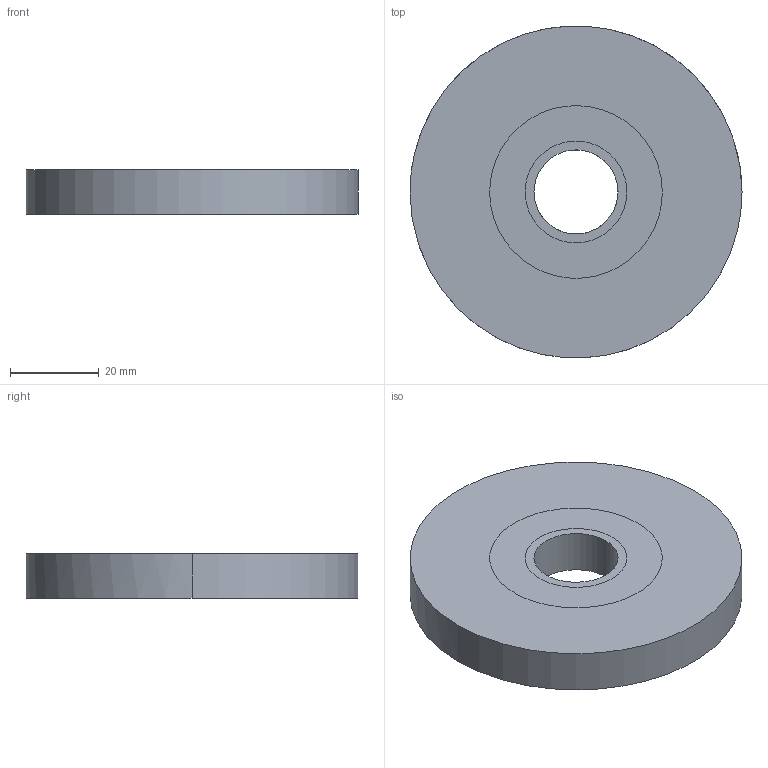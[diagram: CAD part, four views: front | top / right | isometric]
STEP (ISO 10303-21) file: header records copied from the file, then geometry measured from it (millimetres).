
FILE_DESCRIPTION(/* description */ (''),/* implementation_level */ '2;1');
FILE_NAME(/* name */ 'Material 1',/* time_stamp */ '2023-04-20T20:12:50-04:00',/* author */ (''),/* organization */ (''),/* preprocessor_version */ 'ST-DEVELOPER v15',/* originating_system */ '',/* authorisation */ '');
FILE_SCHEMA (('CONFIG_CONTROL_DESIGN'));
Length unit declared in the file: millimetre
Products named in the file (1): Document
Bounding box: 75 x 74.9 x 10 mm (x, y, z)
Volume: 41445.3 mm3; surface area: 11237.6 mm2
Topology: 1 solids, 1 shells, 8 faces, 14 edges, 10 vertices
Faces by surface type: bspline 8
Entity records: 508 total; most frequent: CARTESIAN_POINT 242, ORIENTED_EDGE 28, PCURVE 28, DEFINITIONAL_REPRESENTATION 28, B_SPLINE_CURVE_WITH_KNOTS 16, SURFACE_CURVE 14, EDGE_CURVE 14, EDGE_LOOP 12
